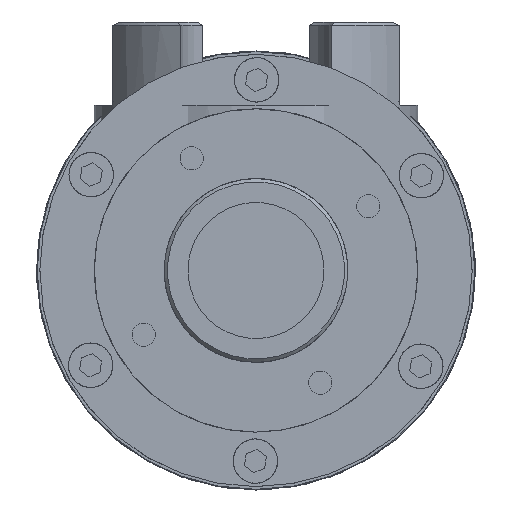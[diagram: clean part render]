
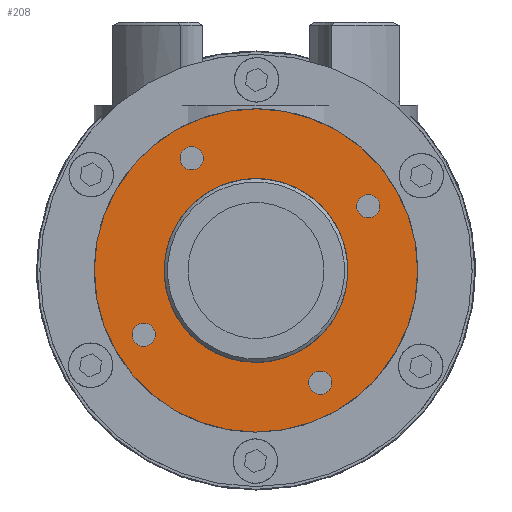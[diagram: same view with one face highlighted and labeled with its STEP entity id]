
A CAD part, left-side view. The second image highlights one B-rep face of the part: STEP entity #208.
In plain terms, the highlighted planar face has unit normal (-1, 0, 0) as drawn and (0, -1, 0) by its records, which use the part's own axes.
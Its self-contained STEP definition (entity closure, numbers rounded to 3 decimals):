
#208 = ADVANCED_FACE( '', ( #341, #342, #343, #344, #345, #346 ), #347, .F. );
#341 = FACE_OUTER_BOUND( '', #501, .T. );
#342 = FACE_BOUND( '', #502, .T. );
#343 = FACE_BOUND( '', #503, .T. );
#344 = FACE_BOUND( '', #504, .T. );
#345 = FACE_BOUND( '', #505, .T. );
#346 = FACE_BOUND( '', #506, .T. );
#347 = PLANE( '', #507 );
#501 = EDGE_LOOP( '', ( #1091 ) );
#502 = EDGE_LOOP( '', ( #1092 ) );
#503 = EDGE_LOOP( '', ( #1093 ) );
#504 = EDGE_LOOP( '', ( #1094 ) );
#505 = EDGE_LOOP( '', ( #1095 ) );
#506 = EDGE_LOOP( '', ( #1096 ) );
#507 = AXIS2_PLACEMENT_3D( '', #1097, #1098, #1099 );
#1091 = ORIENTED_EDGE( '', *, *, #2269, .T. );
#1092 = ORIENTED_EDGE( '', *, *, #2259, .F. );
#1093 = ORIENTED_EDGE( '', *, *, #2271, .F. );
#1094 = ORIENTED_EDGE( '', *, *, #2274, .F. );
#1095 = ORIENTED_EDGE( '', *, *, #2262, .F. );
#1096 = ORIENTED_EDGE( '', *, *, #2266, .F. );
#1097 = CARTESIAN_POINT( '', ( 0., 0., 47.5 ) );
#1098 = DIRECTION( '', ( 0., 1., 0. ) );
#1099 = DIRECTION( '', ( 1., 0., 0. ) );
#2259 = EDGE_CURVE( '', #3437, #3437, #3438, .T. );
#2262 = EDGE_CURVE( '', #3442, #3442, #3443, .T. );
#2266 = EDGE_CURVE( '', #3449, #3449, #3450, .T. );
#2269 = EDGE_CURVE( '', #3454, #3454, #3455, .T. );
#2271 = EDGE_CURVE( '', #3457, #3457, #3458, .T. );
#2274 = EDGE_CURVE( '', #3462, #3462, #3463, .T. );
#3437 = VERTEX_POINT( '', #6387 );
#3438 = CIRCLE( '', #6388, 3.4 );
#3442 = VERTEX_POINT( '', #6392 );
#3443 = CIRCLE( '', #6393, 3.4 );
#3449 = VERTEX_POINT( '', #6399 );
#3450 = CIRCLE( '', #6400, 27. );
#3454 = VERTEX_POINT( '', #6404 );
#3455 = CIRCLE( '', #6405, 47.5 );
#3457 = VERTEX_POINT( '', #6407 );
#3458 = CIRCLE( '', #6408, 3.4 );
#3462 = VERTEX_POINT( '', #6412 );
#3463 = CIRCLE( '', #6413, 3.4 );
#6387 = CARTESIAN_POINT( '', ( -38., 0., 3.4 ) );
#6388 = AXIS2_PLACEMENT_3D( '', #7214, #7215, #7216 );
#6392 = CARTESIAN_POINT( '', ( 3.4, 0., 38. ) );
#6393 = AXIS2_PLACEMENT_3D( '', #7220, #7221, #7222 );
#6399 = CARTESIAN_POINT( '', ( 0., 0., -27. ) );
#6400 = AXIS2_PLACEMENT_3D( '', #7229, #7230, #7231 );
#6404 = CARTESIAN_POINT( '', ( 0., 0., -47.5 ) );
#6405 = AXIS2_PLACEMENT_3D( '', #7235, #7236, #7237 );
#6407 = CARTESIAN_POINT( '', ( -3.4, 0., -38. ) );
#6408 = AXIS2_PLACEMENT_3D( '', #7238, #7239, #7240 );
#6412 = CARTESIAN_POINT( '', ( 38., 0., -3.4 ) );
#6413 = AXIS2_PLACEMENT_3D( '', #7244, #7245, #7246 );
#7214 = CARTESIAN_POINT( '', ( -38., 0., 0. ) );
#7215 = DIRECTION( '', ( 0., -1., 0. ) );
#7216 = DIRECTION( '', ( 0., 0., 1. ) );
#7220 = CARTESIAN_POINT( '', ( 0., 0., 38. ) );
#7221 = DIRECTION( '', ( 0., -1., 0. ) );
#7222 = DIRECTION( '', ( 1., 0., 0. ) );
#7229 = CARTESIAN_POINT( '', ( 0., 0., 0. ) );
#7230 = DIRECTION( '', ( 0., -1., 0. ) );
#7231 = DIRECTION( '', ( 0., 0., -1. ) );
#7235 = CARTESIAN_POINT( '', ( 0., 0., 0. ) );
#7236 = DIRECTION( '', ( 0., -1., 0. ) );
#7237 = DIRECTION( '', ( 0., 0., -1. ) );
#7238 = CARTESIAN_POINT( '', ( 0., 0., -38. ) );
#7239 = DIRECTION( '', ( 0., -1., 0. ) );
#7240 = DIRECTION( '', ( -1., 0., 0. ) );
#7244 = CARTESIAN_POINT( '', ( 38., 0., 0. ) );
#7245 = DIRECTION( '', ( 0., -1., 0. ) );
#7246 = DIRECTION( '', ( 0., 0., -1. ) );
